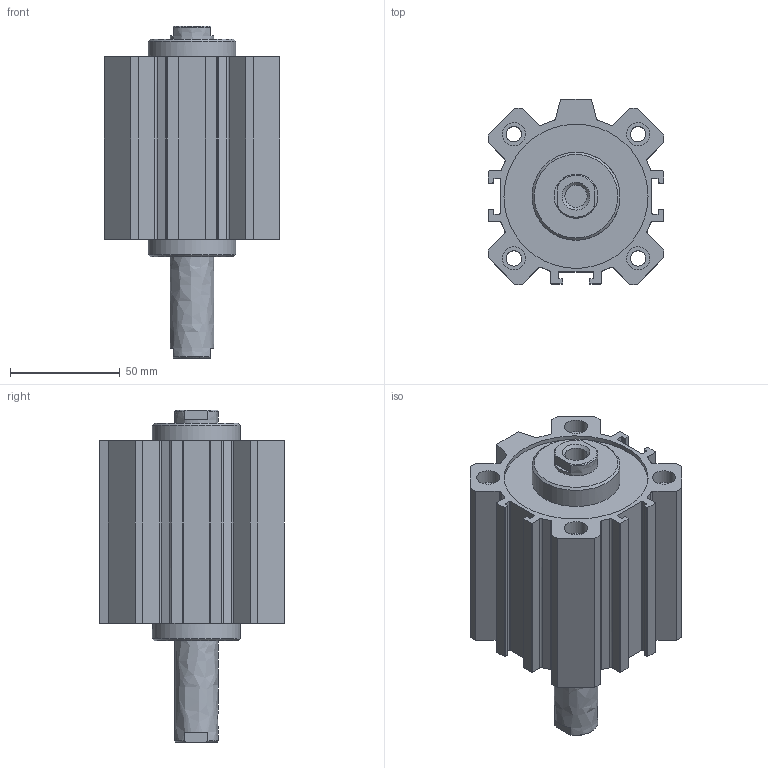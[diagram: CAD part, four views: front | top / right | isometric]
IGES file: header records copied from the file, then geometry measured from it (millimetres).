
Global section: file name: 1514_63_0040; native system: Autodesk Inventor 2014; preprocessor: unknown; author: A. Manieri; date: 20160824.140246; units: millimetre
Bounding box: 80 x 84 x 151 mm (x, y, z)
Volume: 341268.6 mm3; surface area: 93900.9 mm2
Topology: 2 solids, 2 shells, 178 faces, 482 edges, 328 vertices
Faces by surface type: bspline 178
